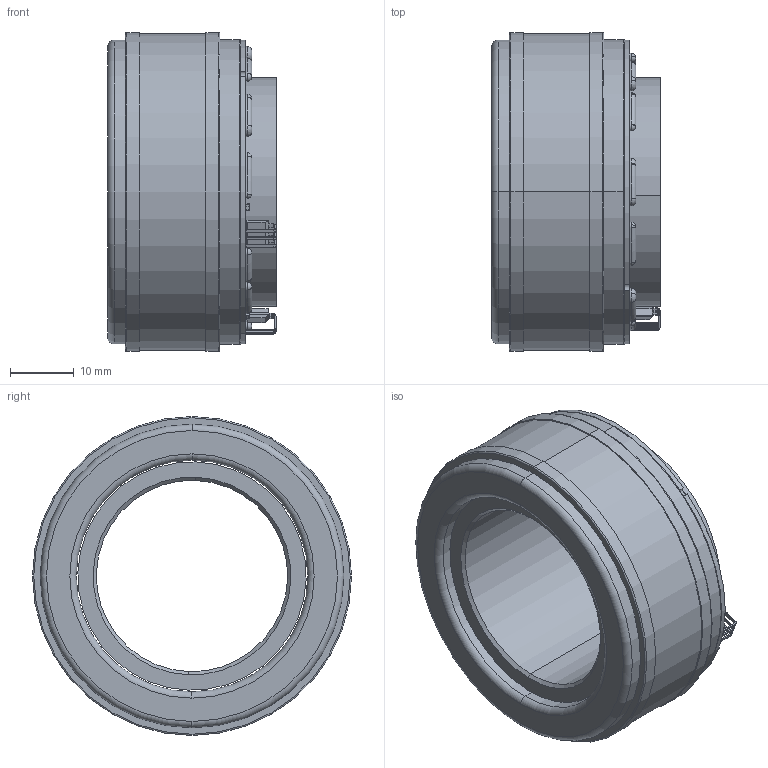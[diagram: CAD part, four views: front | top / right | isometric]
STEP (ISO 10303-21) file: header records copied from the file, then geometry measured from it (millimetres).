
FILE_DESCRIPTION (( 'STEP AP214' ), '1' );
FILE_NAME ('E-00116974..step', '2019-02-21T11:29:27', ( 'Admin' ), ( 'Microsoft' ), 'SwSTEP 2.0', 'SolidWorks 2018', '' );
FILE_SCHEMA (( 'AUTOMOTIVE_DESIGN' ));
Length unit declared in the file: millimetre
Products named in the file (10): 298645; E-00008344; E-00008343; E-00008341; E-00008342; E-00008350; E-00008345; E-00106165; E-00116974.; E-00114879
Assembly tree (19 placements, depth 4):
  E-00116974.
    298645
      E-00106165
      E-00008344
        E-00008345
        E-00008350  x3
        E-00008342  x7
        E-00008341  x3
        E-00008343
    E-00114879
Bounding box: 26.45 x 50 x 50 mm (x, y, z)
Volume: 25849.8 mm3; surface area: 15230.7 mm2
Topology: 39 solids, 39 shells, 1502 faces, 3427 edges, 2115 vertices
Faces by surface type: plane 756, cylinder 613, bspline 56, torus 46, sphere 27, cone 4
Entity records: 39477 total; most frequent: DIRECTION 5504, CARTESIAN_POINT 5191, ORIENTED_EDGE 4654, EDGE_CURVE 2327, AXIS2_PLACEMENT_3D 2148, VERTEX_POINT 1497, EDGE_LOOP 1240, VECTOR 1208
